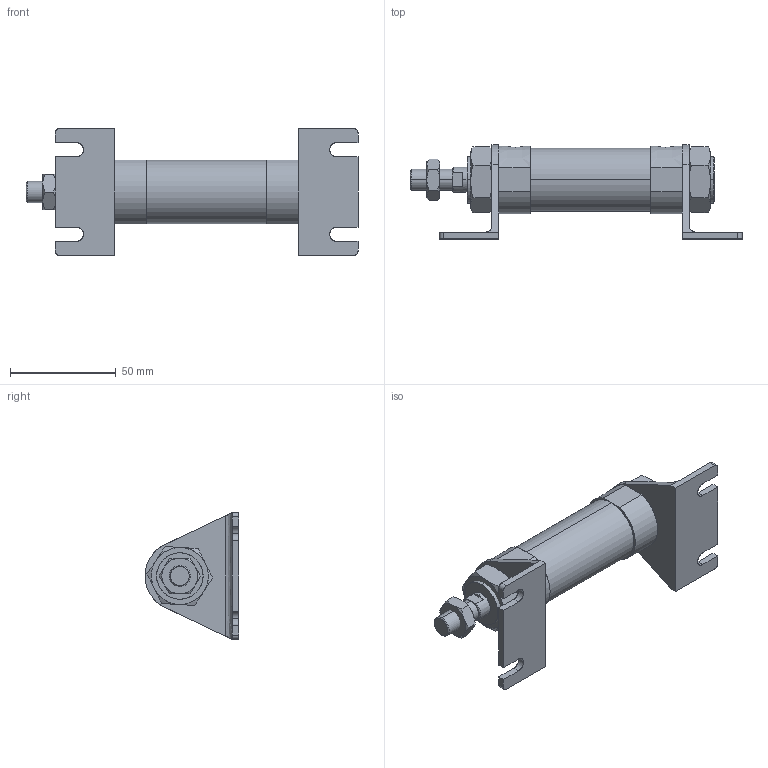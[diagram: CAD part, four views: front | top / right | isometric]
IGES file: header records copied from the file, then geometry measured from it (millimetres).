
Start section: SolidWorks IGES file using analytic representation for surfaces
Global section: file name: C:\Users\Toshiba\Desktop\J#2-25-25-L.IGS; native system: SolidWorks 2014; preprocessor: SolidWorks 2014; author: Toshiba; date: 160310.085242; units: millimetre
Bounding box: 157.2 x 44.5 x 60 mm (x, y, z)
Surface area: 32436.2 mm2 (no closed solid volume)
Topology: 0 solids, 0 shells, 171 faces, 2800 edges, 2796 vertices
Faces by surface type: bspline 111, revolution 60
